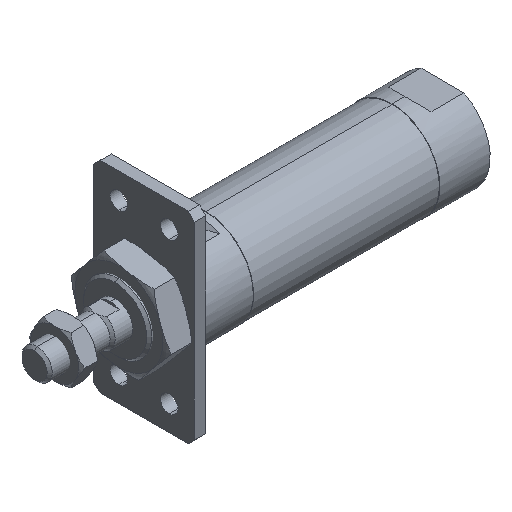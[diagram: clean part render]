
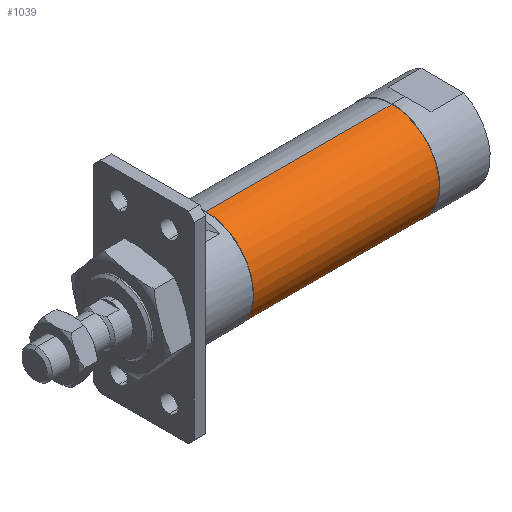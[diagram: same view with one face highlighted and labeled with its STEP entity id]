
A CAD part, isometric view. The second image highlights one B-rep face of the part: STEP entity #1039.
In plain terms, the highlighted cylindrical face has radius 18.8 mm (diameter 37.6 mm), a partial arc.
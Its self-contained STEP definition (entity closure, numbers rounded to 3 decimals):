
#79 = DIRECTION ( 'NONE',  ( -1., 0., 0. ) ) ;
#362 = CARTESIAN_POINT ( 'NONE',  ( 68., 0., -18.8 ) ) ;
#384 = DIRECTION ( 'NONE',  ( 0., 0., 1. ) ) ;
#439 = VECTOR ( 'NONE', #2057, 1000. ) ;
#548 = CARTESIAN_POINT ( 'NONE',  ( -1.784, 0., 18.8 ) ) ;
#551 = CYLINDRICAL_SURFACE ( 'NONE', #2534, 18.8 ) ;
#598 = EDGE_CURVE ( 'NONE', #2476, #2251, #3667, .T. ) ;
#694 = LINE ( 'NONE', #548, #439 ) ;
#715 = AXIS2_PLACEMENT_3D ( 'NONE', #1211, #4079, #2777 ) ;
#754 = EDGE_CURVE ( 'NONE', #2476, #2625, #1624, .T. ) ;
#947 = CARTESIAN_POINT ( 'NONE',  ( 68., 0., 18.8 ) ) ;
#1039 = ADVANCED_FACE ( 'NONE', ( #1371 ), #551, .T. ) ;
#1211 = CARTESIAN_POINT ( 'NONE',  ( 68., 0., 0. ) ) ;
#1371 = FACE_OUTER_BOUND ( 'NONE', #3361, .T. ) ;
#1415 = CIRCLE ( 'NONE', #715, 18.8 ) ;
#1429 = DIRECTION ( 'NONE',  ( 0., 0., 1. ) ) ;
#1442 = EDGE_CURVE ( 'NONE', #2251, #4009, #694, .T. ) ;
#1471 = CARTESIAN_POINT ( 'NONE',  ( 142., 0., 0. ) ) ;
#1493 = ORIENTED_EDGE ( 'NONE', *, *, #754, .F. ) ;
#1624 = LINE ( 'NONE', #4064, #3197 ) ;
#1634 = CARTESIAN_POINT ( 'NONE',  ( -1.784, 0., 0. ) ) ;
#2057 = DIRECTION ( 'NONE',  ( -1., 0., 0. ) ) ;
#2133 = DIRECTION ( 'NONE',  ( -1., 0., 0. ) ) ;
#2251 = VERTEX_POINT ( 'NONE', #2429 ) ;
#2314 = EDGE_CURVE ( 'NONE', #2625, #4009, #1415, .T. ) ;
#2417 = AXIS2_PLACEMENT_3D ( 'NONE', #1471, #2133, #1429 ) ;
#2429 = CARTESIAN_POINT ( 'NONE',  ( 142., 0., 18.8 ) ) ;
#2476 = VERTEX_POINT ( 'NONE', #2520 ) ;
#2520 = CARTESIAN_POINT ( 'NONE',  ( 142., 0., -18.8 ) ) ;
#2534 = AXIS2_PLACEMENT_3D ( 'NONE', #1634, #79, #384 ) ;
#2625 = VERTEX_POINT ( 'NONE', #362 ) ;
#2713 = ORIENTED_EDGE ( 'NONE', *, *, #598, .T. ) ;
#2777 = DIRECTION ( 'NONE',  ( 0., 0., 1. ) ) ;
#2789 = DIRECTION ( 'NONE',  ( -1., 0., 0. ) ) ;
#3179 = ORIENTED_EDGE ( 'NONE', *, *, #2314, .F. ) ;
#3197 = VECTOR ( 'NONE', #2789, 1000. ) ;
#3361 = EDGE_LOOP ( 'NONE', ( #1493, #2713, #3752, #3179 ) ) ;
#3667 = CIRCLE ( 'NONE', #2417, 18.8 ) ;
#3752 = ORIENTED_EDGE ( 'NONE', *, *, #1442, .T. ) ;
#4009 = VERTEX_POINT ( 'NONE', #947 ) ;
#4064 = CARTESIAN_POINT ( 'NONE',  ( -1.784, 0., -18.8 ) ) ;
#4079 = DIRECTION ( 'NONE',  ( -1., 0., 0. ) ) ;
